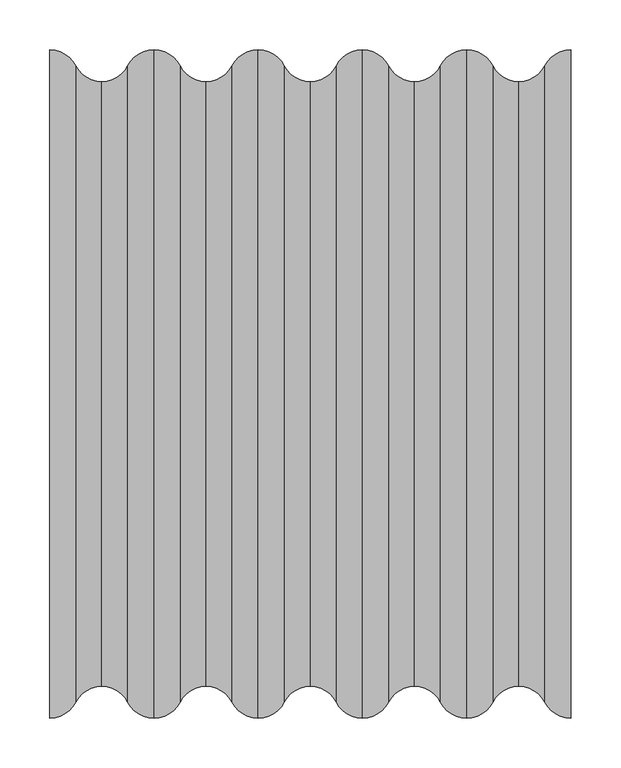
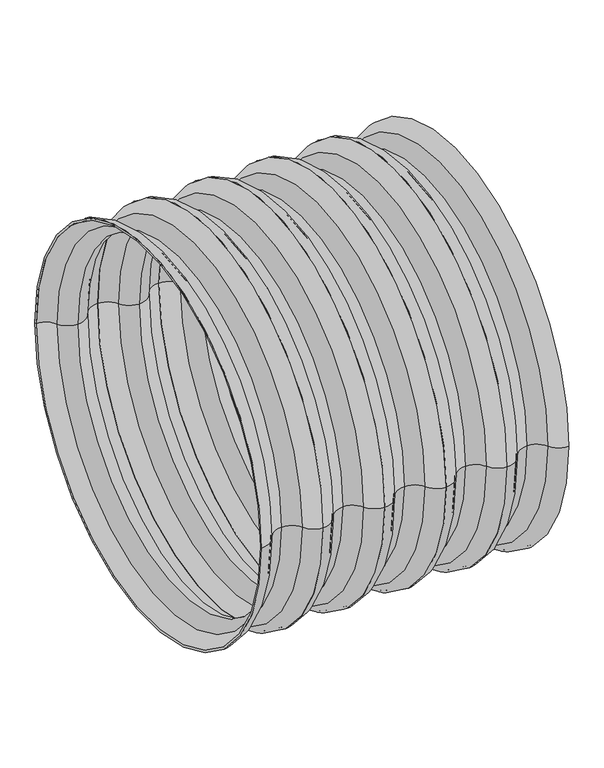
"""IFC4 building model written with IfcOpenShell, lengths in millimetres: pipe fitting geometry, Z_PIF_UN_Q-Bic_Plus_Shaft_Pipe_Wavin_(nested) : PP, RAL8012, ø600mm."""

from ifc_helpers import new_model, si_unit, point, frame, origin, place, context, project, spatial, circle_curve, ellipse_curve, trimmed, source, transform, mapped, element, save
from ifc_brep_helpers import plane_surface, revolved_surface, advanced_brep


def pipe_fitting_81697eeb(model_context):
    return source(origin(), model_context, "Body", "AdvancedBrep", [
        advanced_brep(
        [(840.0, -336.4, 0.0), (840.0, 336.4, 0.0), (866.25, 320.3, 0.0), (866.25, -320.3, 0.0), (840.0, -332.7, 0.0), (840.0, 332.7, 0.0), (866.25, -316.6, 0.0), (866.25, 316.6, 0.0), (892.5, -300.5, 0.0), (892.5, 300.5, 0.0), (918.75, -316.6, 0.0), (918.75, 316.6, 0.0), (945.0, -332.7, 0.0), (945.0, 332.7, 0.0), (945.0, -336.4, 0.0), (945.0, 336.4, 0.0), (918.75, -320.3, 0.0), (918.75, 320.3, 0.0), (892.5, -304.2, 0.0), (892.5, 304.2, 0.0)],
        [
            (0, 1, circle_curve(frame((840.0, 0.0, 0.0), z_axis=(1.0, 0.0, 0.0), x_axis=(0.0, 1.0, 0.0)), 336.4)),
            (1, 2, circle_curve(frame((840.0, 306.9505435, 0.0), z_axis=(0.0, 0.0, -1.0), x_axis=(1.0, 0.0, 0.0)), 29.4494565)),
            (2, 3, circle_curve(frame((866.25, 0.0, 0.0), z_axis=(-1.0, 0.0, 0.0), x_axis=(0.0, 1.0, 0.0)), 320.3)),
            (3, 0, circle_curve(frame((840.0, -306.9505435, 0.0), z_axis=(0.0, 0.0, -1.0), x_axis=(1.0, 0.0, 0.0)), 29.4494565)),
            (1, 0, circle_curve(frame((840.0, 0.0, 0.0), z_axis=(1.0, 0.0, 0.0), x_axis=(0.0, 1.0, 0.0)), 336.4)),
            (3, 2, circle_curve(frame((866.25, 0.0, 0.0), z_axis=(-1.0, 0.0, 0.0), x_axis=(0.0, 1.0, 0.0)), 320.3)),
            (4, 5, circle_curve(frame((840.0, 0.0, 0.0), z_axis=(1.0, 0.0, 0.0), x_axis=(0.0, 1.0, 0.0)), 332.7)),
            (5, 1),
            (0, 4),
            (5, 4, circle_curve(frame((840.0, 0.0, 0.0), z_axis=(1.0, 0.0, 0.0), x_axis=(0.0, 1.0, 0.0)), 332.7)),
            (6, 7, circle_curve(frame((866.25, 0.0, 0.0), z_axis=(1.0, 0.0, 0.0), x_axis=(0.0, 1.0, 0.0)), 316.6)),
            (7, 5, circle_curve(frame((840.0, 303.2505435, 0.0), z_axis=(0.0, 0.0, 1.0), x_axis=(1.0, 0.0, 0.0)), 29.4494565)),
            (4, 6, circle_curve(frame((840.0, -303.2505435, 0.0), z_axis=(0.0, 0.0, 1.0), x_axis=(1.0, 0.0, 0.0)), 29.4494565)),
            (7, 6, circle_curve(frame((866.25, 0.0, 0.0), z_axis=(1.0, 0.0, 0.0), x_axis=(0.0, 1.0, 0.0)), 316.6)),
            (8, 9, circle_curve(frame((892.5, 0.0, 0.0), z_axis=(1.0, 0.0, 0.0), x_axis=(0.0, 1.0, 0.0)), 300.5)),
            (9, 7, circle_curve(frame((892.5, 329.9494565, 0.0), z_axis=(0.0, 0.0, -1.0), x_axis=(1.0, 0.0, 0.0)), 29.4494565)),
            (6, 8, circle_curve(frame((892.5, -329.9494565, 0.0), z_axis=(0.0, 0.0, -1.0), x_axis=(1.0, 0.0, 0.0)), 29.4494565)),
            (9, 8, circle_curve(frame((892.5, 0.0, 0.0), z_axis=(1.0, 0.0, 0.0), x_axis=(0.0, 1.0, 0.0)), 300.5)),
            (10, 11, circle_curve(frame((918.75, 0.0, 0.0), z_axis=(1.0, 0.0, 0.0), x_axis=(0.0, 1.0, 0.0)), 316.6)),
            (11, 9, circle_curve(frame((892.5, 329.9494565, 0.0), z_axis=(0.0, 0.0, -1.0), x_axis=(1.0, 0.0, 0.0)), 29.4494565)),
            (8, 10, circle_curve(frame((892.5, -329.9494565, 0.0), z_axis=(0.0, 0.0, -1.0), x_axis=(1.0, 0.0, 0.0)), 29.4494565)),
            (11, 10, circle_curve(frame((918.75, 0.0, 0.0), z_axis=(1.0, 0.0, 0.0), x_axis=(0.0, 1.0, 0.0)), 316.6)),
            (12, 13, circle_curve(frame((945.0, 0.0, 0.0), z_axis=(1.0, 0.0, 0.0), x_axis=(0.0, 1.0, 0.0)), 332.7)),
            (13, 11, circle_curve(frame((945.0, 303.2505435, 0.0), z_axis=(0.0, 0.0, 1.0), x_axis=(1.0, 0.0, 0.0)), 29.4494565)),
            (10, 12, circle_curve(frame((945.0, -303.2505435, 0.0), z_axis=(0.0, 0.0, 1.0), x_axis=(1.0, 0.0, 0.0)), 29.4494565)),
            (13, 12, circle_curve(frame((945.0, 0.0, 0.0), z_axis=(1.0, 0.0, 0.0), x_axis=(0.0, 1.0, 0.0)), 332.7)),
            (14, 15, circle_curve(frame((945.0, 0.0, 0.0), z_axis=(1.0, 0.0, 0.0), x_axis=(0.0, 1.0, 0.0)), 336.4)),
            (15, 13),
            (12, 14),
            (15, 14, circle_curve(frame((945.0, 0.0, 0.0), z_axis=(1.0, 0.0, 0.0), x_axis=(0.0, 1.0, 0.0)), 336.4)),
            (16, 17, circle_curve(frame((918.75, 0.0, 0.0), z_axis=(1.0, 0.0, 0.0), x_axis=(0.0, 1.0, 0.0)), 320.3)),
            (17, 15, circle_curve(frame((945.0, 306.9505435, 0.0), z_axis=(0.0, 0.0, -1.0), x_axis=(1.0, 0.0, 0.0)), 29.4494565)),
            (14, 16, circle_curve(frame((945.0, -306.9505435, 0.0), z_axis=(0.0, 0.0, -1.0), x_axis=(1.0, 0.0, 0.0)), 29.4494565)),
            (17, 16, circle_curve(frame((918.75, 0.0, 0.0), z_axis=(1.0, 0.0, 0.0), x_axis=(0.0, 1.0, 0.0)), 320.3)),
            (18, 19, circle_curve(frame((892.5, 0.0, 0.0), z_axis=(1.0, 0.0, 0.0), x_axis=(0.0, 1.0, 0.0)), 304.2)),
            (19, 17, circle_curve(frame((892.5, 333.6494565, 0.0), z_axis=(0.0, 0.0, 1.0), x_axis=(1.0, 0.0, 0.0)), 29.4494565)),
            (16, 18, circle_curve(frame((892.5, -333.6494565, 0.0), z_axis=(0.0, 0.0, 1.0), x_axis=(1.0, 0.0, 0.0)), 29.4494565)),
            (19, 18, circle_curve(frame((892.5, 0.0, 0.0), z_axis=(1.0, 0.0, 0.0), x_axis=(0.0, 1.0, 0.0)), 304.2)),
            (2, 19, circle_curve(frame((892.5, 333.6494565, 0.0), z_axis=(0.0, 0.0, 1.0), x_axis=(1.0, 0.0, 0.0)), 29.4494565)),
            (18, 3, circle_curve(frame((892.5, -333.6494565, 0.0), z_axis=(0.0, 0.0, 1.0), x_axis=(1.0, 0.0, 0.0)), 29.4494565)),
        ],
        [
            revolved_surface(trimmed(ellipse_curve(frame((840.0, 306.9505435, 0.0), z_axis=(0.0, 0.0, 1.0), x_axis=(1.0, 0.0, 0.0)), 29.4494565, 29.4494565), [point((866.25, 320.3, 0.0))], [point((840.0, 336.4, 0.0))], True, "CARTESIAN"), (790.0, 0.0, 0.0), (-1.0, 0.0, 0.0)),
            plane_surface(frame((840.0, 0.0, 0.0), z_axis=(-1.0, 0.0, 0.0), x_axis=(0.0, 1.0, 0.0))),
            revolved_surface(trimmed(ellipse_curve(frame((840.0, 303.2505435, 0.0), z_axis=(0.0, 0.0, -1.0), x_axis=(1.0, 0.0, 0.0)), 29.4494565, 29.4494565), [point((840.0, 332.7, 0.0))], [point((866.25, 316.6, 0.0))], True, "CARTESIAN"), (790.0, 0.0, 0.0), (-1.0, 0.0, 0.0)),
            revolved_surface(trimmed(ellipse_curve(frame((892.5, 329.9494565, 0.0), z_axis=(0.0, 0.0, 1.0), x_axis=(1.0, 0.0, 0.0)), 29.4494565, 29.4494565), [point((866.25, 316.6, 0.0))], [point((892.5, 300.5, 0.0))], True, "CARTESIAN"), (790.0, 0.0, 0.0), (-1.0, 0.0, 0.0)),
            revolved_surface(trimmed(ellipse_curve(frame((892.5, 329.9494565, 0.0), z_axis=(0.0, 0.0, 1.0), x_axis=(1.0, 0.0, 0.0)), 29.4494565, 29.4494565), [point((892.5, 300.5, 0.0))], [point((918.75, 316.6, 0.0))], True, "CARTESIAN"), (790.0, 0.0, 0.0), (-1.0, 0.0, 0.0)),
            revolved_surface(trimmed(ellipse_curve(frame((945.0, 303.2505435, 0.0), z_axis=(0.0, 0.0, -1.0), x_axis=(1.0, 0.0, 0.0)), 29.4494565, 29.4494565), [point((918.75, 316.6, 0.0))], [point((945.0, 332.7, 0.0))], True, "CARTESIAN"), (790.0, 0.0, 0.0), (-1.0, 0.0, 0.0)),
            plane_surface(frame((945.0, 0.0, 0.0), z_axis=(1.0, 0.0, 0.0), x_axis=(0.0, 1.0, 0.0))),
            revolved_surface(trimmed(ellipse_curve(frame((945.0, 306.9505435, 0.0), z_axis=(0.0, 0.0, 1.0), x_axis=(1.0, 0.0, 0.0)), 29.4494565, 29.4494565), [point((945.0, 336.4, 0.0))], [point((918.75, 320.3, 0.0))], True, "CARTESIAN"), (790.0, 0.0, 0.0), (-1.0, 0.0, 0.0)),
            revolved_surface(trimmed(ellipse_curve(frame((892.5, 333.6494565, 0.0), z_axis=(0.0, 0.0, -1.0), x_axis=(1.0, 0.0, 0.0)), 29.4494565, 29.4494565), [point((918.75, 320.3, 0.0))], [point((892.5, 304.2, 0.0))], True, "CARTESIAN"), (790.0, 0.0, 0.0), (-1.0, 0.0, 0.0)),
            revolved_surface(trimmed(ellipse_curve(frame((892.5, 333.6494565, 0.0), z_axis=(0.0, 0.0, -1.0), x_axis=(1.0, 0.0, 0.0)), 29.4494565, 29.4494565), [point((892.5, 304.2, 0.0))], [point((866.25, 320.3, 0.0))], True, "CARTESIAN"), (790.0, 0.0, 0.0), (-1.0, 0.0, 0.0)),
        ],
        [
            (0, [[1, 2, 3, 4]]),
            (0, [[5, -4, 6, -2]]),
            (1, [[7, 8, -1, 9]]),
            (1, [[10, -9, -5, -8]]),
            (2, [[11, 12, -7, 13]]),
            (2, [[14, -13, -10, -12]]),
            (3, [[15, 16, -11, 17]]),
            (3, [[18, -17, -14, -16]]),
            (4, [[19, 20, -15, 21]]),
            (4, [[22, -21, -18, -20]]),
            (5, [[23, 24, -19, 25]]),
            (5, [[26, -25, -22, -24]]),
            (6, [[27, 28, -23, 29]]),
            (6, [[30, -29, -26, -28]]),
            (7, [[31, 32, -27, 33]]),
            (7, [[34, -33, -30, -32]]),
            (8, [[35, 36, -31, 37]]),
            (8, [[38, -37, -34, -36]]),
            (9, [[-3, 39, -35, 40]]),
            (9, [[-6, -40, -38, -39]]),
        ],
    ),
        advanced_brep(
        [(735.0, -336.4, 0.0), (735.0, 336.4, 0.0), (761.25, 320.3, 0.0), (761.25, -320.3, 0.0), (735.0, -332.7, 0.0), (735.0, 332.7, 0.0), (761.25, -316.6, 0.0), (761.25, 316.6, 0.0), (787.5, -300.5, 0.0), (787.5, 300.5, 0.0), (813.75, -316.6, 0.0), (813.75, 316.6, 0.0), (840.0, -332.7, 0.0), (840.0, 332.7, 0.0), (840.0, -336.4, 0.0), (840.0, 336.4, 0.0), (813.75, -320.3, 0.0), (813.75, 320.3, 0.0), (787.5, -304.2, 0.0), (787.5, 304.2, 0.0)],
        [
            (0, 1, circle_curve(frame((735.0, 0.0, 0.0), z_axis=(1.0, 0.0, 0.0), x_axis=(0.0, 1.0, 0.0)), 336.4)),
            (1, 2, circle_curve(frame((735.0, 306.9505435, 0.0), z_axis=(0.0, 0.0, -1.0), x_axis=(1.0, 0.0, 0.0)), 29.4494565)),
            (2, 3, circle_curve(frame((761.25, 0.0, 0.0), z_axis=(-1.0, 0.0, 0.0), x_axis=(0.0, 1.0, 0.0)), 320.3)),
            (3, 0, circle_curve(frame((735.0, -306.9505435, 0.0), z_axis=(0.0, 0.0, -1.0), x_axis=(1.0, 0.0, 0.0)), 29.4494565)),
            (1, 0, circle_curve(frame((735.0, 0.0, 0.0), z_axis=(1.0, 0.0, 0.0), x_axis=(0.0, 1.0, 0.0)), 336.4)),
            (3, 2, circle_curve(frame((761.25, 0.0, 0.0), z_axis=(-1.0, 0.0, 0.0), x_axis=(0.0, 1.0, 0.0)), 320.3)),
            (4, 5, circle_curve(frame((735.0, 0.0, 0.0), z_axis=(1.0, 0.0, 0.0), x_axis=(0.0, 1.0, 0.0)), 332.7)),
            (5, 1),
            (0, 4),
            (5, 4, circle_curve(frame((735.0, 0.0, 0.0), z_axis=(1.0, 0.0, 0.0), x_axis=(0.0, 1.0, 0.0)), 332.7)),
            (6, 7, circle_curve(frame((761.25, 0.0, 0.0), z_axis=(1.0, 0.0, 0.0), x_axis=(0.0, 1.0, 0.0)), 316.6)),
            (7, 5, circle_curve(frame((735.0, 303.2505435, 0.0), z_axis=(0.0, 0.0, 1.0), x_axis=(1.0, 0.0, 0.0)), 29.4494565)),
            (4, 6, circle_curve(frame((735.0, -303.2505435, 0.0), z_axis=(0.0, 0.0, 1.0), x_axis=(1.0, 0.0, 0.0)), 29.4494565)),
            (7, 6, circle_curve(frame((761.25, 0.0, 0.0), z_axis=(1.0, 0.0, 0.0), x_axis=(0.0, 1.0, 0.0)), 316.6)),
            (8, 9, circle_curve(frame((787.5, 0.0, 0.0), z_axis=(1.0, 0.0, 0.0), x_axis=(0.0, 1.0, 0.0)), 300.5)),
            (9, 7, circle_curve(frame((787.5, 329.9494565, 0.0), z_axis=(0.0, 0.0, -1.0), x_axis=(1.0, 0.0, 0.0)), 29.4494565)),
            (6, 8, circle_curve(frame((787.5, -329.9494565, 0.0), z_axis=(0.0, 0.0, -1.0), x_axis=(1.0, 0.0, 0.0)), 29.4494565)),
            (9, 8, circle_curve(frame((787.5, 0.0, 0.0), z_axis=(1.0, 0.0, 0.0), x_axis=(0.0, 1.0, 0.0)), 300.5)),
            (10, 11, circle_curve(frame((813.75, 0.0, 0.0), z_axis=(1.0, 0.0, 0.0), x_axis=(0.0, 1.0, 0.0)), 316.6)),
            (11, 9, circle_curve(frame((787.5, 329.9494565, 0.0), z_axis=(0.0, 0.0, -1.0), x_axis=(1.0, 0.0, 0.0)), 29.4494565)),
            (8, 10, circle_curve(frame((787.5, -329.9494565, 0.0), z_axis=(0.0, 0.0, -1.0), x_axis=(1.0, 0.0, 0.0)), 29.4494565)),
            (11, 10, circle_curve(frame((813.75, 0.0, 0.0), z_axis=(1.0, 0.0, 0.0), x_axis=(0.0, 1.0, 0.0)), 316.6)),
            (12, 13, circle_curve(frame((840.0, 0.0, 0.0), z_axis=(1.0, 0.0, 0.0), x_axis=(0.0, 1.0, 0.0)), 332.7)),
            (13, 11, circle_curve(frame((840.0, 303.2505435, 0.0), z_axis=(0.0, 0.0, 1.0), x_axis=(1.0, 0.0, 0.0)), 29.4494565)),
            (10, 12, circle_curve(frame((840.0, -303.2505435, 0.0), z_axis=(0.0, 0.0, 1.0), x_axis=(1.0, 0.0, 0.0)), 29.4494565)),
            (13, 12, circle_curve(frame((840.0, 0.0, 0.0), z_axis=(1.0, 0.0, 0.0), x_axis=(0.0, 1.0, 0.0)), 332.7)),
            (14, 15, circle_curve(frame((840.0, 0.0, 0.0), z_axis=(1.0, 0.0, 0.0), x_axis=(0.0, 1.0, 0.0)), 336.4)),
            (15, 13),
            (12, 14),
            (15, 14, circle_curve(frame((840.0, 0.0, 0.0), z_axis=(1.0, 0.0, 0.0), x_axis=(0.0, 1.0, 0.0)), 336.4)),
            (16, 17, circle_curve(frame((813.75, 0.0, 0.0), z_axis=(1.0, 0.0, 0.0), x_axis=(0.0, 1.0, 0.0)), 320.3)),
            (17, 15, circle_curve(frame((840.0, 306.9505435, 0.0), z_axis=(0.0, 0.0, -1.0), x_axis=(1.0, 0.0, 0.0)), 29.4494565)),
            (14, 16, circle_curve(frame((840.0, -306.9505435, 0.0), z_axis=(0.0, 0.0, -1.0), x_axis=(1.0, 0.0, 0.0)), 29.4494565)),
            (17, 16, circle_curve(frame((813.75, 0.0, 0.0), z_axis=(1.0, 0.0, 0.0), x_axis=(0.0, 1.0, 0.0)), 320.3)),
            (18, 19, circle_curve(frame((787.5, 0.0, 0.0), z_axis=(1.0, 0.0, 0.0), x_axis=(0.0, 1.0, 0.0)), 304.2)),
            (19, 17, circle_curve(frame((787.5, 333.6494565, 0.0), z_axis=(0.0, 0.0, 1.0), x_axis=(1.0, 0.0, 0.0)), 29.4494565)),
            (16, 18, circle_curve(frame((787.5, -333.6494565, 0.0), z_axis=(0.0, 0.0, 1.0), x_axis=(1.0, 0.0, 0.0)), 29.4494565)),
            (19, 18, circle_curve(frame((787.5, 0.0, 0.0), z_axis=(1.0, 0.0, 0.0), x_axis=(0.0, 1.0, 0.0)), 304.2)),
            (2, 19, circle_curve(frame((787.5, 333.6494565, 0.0), z_axis=(0.0, 0.0, 1.0), x_axis=(1.0, 0.0, 0.0)), 29.4494565)),
            (18, 3, circle_curve(frame((787.5, -333.6494565, 0.0), z_axis=(0.0, 0.0, 1.0), x_axis=(1.0, 0.0, 0.0)), 29.4494565)),
        ],
        [
            revolved_surface(trimmed(ellipse_curve(frame((735.0, 306.9505435, 0.0), z_axis=(0.0, 0.0, 1.0), x_axis=(1.0, 0.0, 0.0)), 29.4494565, 29.4494565), [point((761.25, 320.3, 0.0))], [point((735.0, 336.4, 0.0))], True, "CARTESIAN"), (685.0, 0.0, 0.0), (-1.0, 0.0, 0.0)),
            plane_surface(frame((735.0, 0.0, 0.0), z_axis=(-1.0, 0.0, 0.0), x_axis=(0.0, 1.0, 0.0))),
            revolved_surface(trimmed(ellipse_curve(frame((735.0, 303.2505435, 0.0), z_axis=(0.0, 0.0, -1.0), x_axis=(1.0, 0.0, 0.0)), 29.4494565, 29.4494565), [point((735.0, 332.7, 0.0))], [point((761.25, 316.6, 0.0))], True, "CARTESIAN"), (685.0, 0.0, 0.0), (-1.0, 0.0, 0.0)),
            revolved_surface(trimmed(ellipse_curve(frame((787.5, 329.9494565, 0.0), z_axis=(0.0, 0.0, 1.0), x_axis=(1.0, 0.0, 0.0)), 29.4494565, 29.4494565), [point((761.25, 316.6, 0.0))], [point((787.5, 300.5, 0.0))], True, "CARTESIAN"), (685.0, 0.0, 0.0), (-1.0, 0.0, 0.0)),
            revolved_surface(trimmed(ellipse_curve(frame((787.5, 329.9494565, 0.0), z_axis=(0.0, 0.0, 1.0), x_axis=(1.0, 0.0, 0.0)), 29.4494565, 29.4494565), [point((787.5, 300.5, 0.0))], [point((813.75, 316.6, 0.0))], True, "CARTESIAN"), (685.0, 0.0, 0.0), (-1.0, 0.0, 0.0)),
            revolved_surface(trimmed(ellipse_curve(frame((840.0, 303.2505435, 0.0), z_axis=(0.0, 0.0, -1.0), x_axis=(1.0, 0.0, 0.0)), 29.4494565, 29.4494565), [point((813.75, 316.6, 0.0))], [point((840.0, 332.7, 0.0))], True, "CARTESIAN"), (685.0, 0.0, 0.0), (-1.0, 0.0, 0.0)),
            plane_surface(frame((840.0, 0.0, 0.0), z_axis=(1.0, 0.0, 0.0), x_axis=(0.0, 1.0, 0.0))),
            revolved_surface(trimmed(ellipse_curve(frame((840.0, 306.9505435, 0.0), z_axis=(0.0, 0.0, 1.0), x_axis=(1.0, 0.0, 0.0)), 29.4494565, 29.4494565), [point((840.0, 336.4, 0.0))], [point((813.75, 320.3, 0.0))], True, "CARTESIAN"), (685.0, 0.0, 0.0), (-1.0, 0.0, 0.0)),
            revolved_surface(trimmed(ellipse_curve(frame((787.5, 333.6494565, 0.0), z_axis=(0.0, 0.0, -1.0), x_axis=(1.0, 0.0, 0.0)), 29.4494565, 29.4494565), [point((813.75, 320.3, 0.0))], [point((787.5, 304.2, 0.0))], True, "CARTESIAN"), (685.0, 0.0, 0.0), (-1.0, 0.0, 0.0)),
            revolved_surface(trimmed(ellipse_curve(frame((787.5, 333.6494565, 0.0), z_axis=(0.0, 0.0, -1.0), x_axis=(1.0, 0.0, 0.0)), 29.4494565, 29.4494565), [point((787.5, 304.2, 0.0))], [point((761.25, 320.3, 0.0))], True, "CARTESIAN"), (685.0, 0.0, 0.0), (-1.0, 0.0, 0.0)),
        ],
        [
            (0, [[1, 2, 3, 4]]),
            (0, [[5, -4, 6, -2]]),
            (1, [[7, 8, -1, 9]]),
            (1, [[10, -9, -5, -8]]),
            (2, [[11, 12, -7, 13]]),
            (2, [[14, -13, -10, -12]]),
            (3, [[15, 16, -11, 17]]),
            (3, [[18, -17, -14, -16]]),
            (4, [[19, 20, -15, 21]]),
            (4, [[22, -21, -18, -20]]),
            (5, [[23, 24, -19, 25]]),
            (5, [[26, -25, -22, -24]]),
            (6, [[27, 28, -23, 29]]),
            (6, [[30, -29, -26, -28]]),
            (7, [[31, 32, -27, 33]]),
            (7, [[34, -33, -30, -32]]),
            (8, [[35, 36, -31, 37]]),
            (8, [[38, -37, -34, -36]]),
            (9, [[-3, 39, -35, 40]]),
            (9, [[-6, -40, -38, -39]]),
        ],
    ),
        advanced_brep(
        [(630.0, -336.4, 0.0), (630.0, 336.4, 0.0), (656.25, 320.3, 0.0), (656.25, -320.3, 0.0), (630.0, -332.7, 0.0), (630.0, 332.7, 0.0), (656.25, -316.6, 0.0), (656.25, 316.6, 0.0), (682.5, -300.5, 0.0), (682.5, 300.5, 0.0), (708.75, -316.6, 0.0), (708.75, 316.6, 0.0), (735.0, -332.7, 0.0), (735.0, 332.7, 0.0), (735.0, -336.4, 0.0), (735.0, 336.4, 0.0), (708.75, -320.3, 0.0), (708.75, 320.3, 0.0), (682.5, -304.2, 0.0), (682.5, 304.2, 0.0)],
        [
            (0, 1, circle_curve(frame((630.0, 0.0, 0.0), z_axis=(1.0, 0.0, 0.0), x_axis=(0.0, 1.0, 0.0)), 336.4)),
            (1, 2, circle_curve(frame((630.0, 306.9505435, 0.0), z_axis=(0.0, 0.0, -1.0), x_axis=(1.0, 0.0, 0.0)), 29.4494565)),
            (2, 3, circle_curve(frame((656.25, 0.0, 0.0), z_axis=(-1.0, 0.0, 0.0), x_axis=(0.0, 1.0, 0.0)), 320.3)),
            (3, 0, circle_curve(frame((630.0, -306.9505435, 0.0), z_axis=(0.0, 0.0, -1.0), x_axis=(1.0, 0.0, 0.0)), 29.4494565)),
            (1, 0, circle_curve(frame((630.0, 0.0, 0.0), z_axis=(1.0, 0.0, 0.0), x_axis=(0.0, 1.0, 0.0)), 336.4)),
            (3, 2, circle_curve(frame((656.25, 0.0, 0.0), z_axis=(-1.0, 0.0, 0.0), x_axis=(0.0, 1.0, 0.0)), 320.3)),
            (4, 5, circle_curve(frame((630.0, 0.0, 0.0), z_axis=(1.0, 0.0, 0.0), x_axis=(0.0, 1.0, 0.0)), 332.7)),
            (5, 1),
            (0, 4),
            (5, 4, circle_curve(frame((630.0, 0.0, 0.0), z_axis=(1.0, 0.0, 0.0), x_axis=(0.0, 1.0, 0.0)), 332.7)),
            (6, 7, circle_curve(frame((656.25, 0.0, 0.0), z_axis=(1.0, 0.0, 0.0), x_axis=(0.0, 1.0, 0.0)), 316.6)),
            (7, 5, circle_curve(frame((630.0, 303.2505435, 0.0), z_axis=(0.0, 0.0, 1.0), x_axis=(1.0, 0.0, 0.0)), 29.4494565)),
            (4, 6, circle_curve(frame((630.0, -303.2505435, 0.0), z_axis=(0.0, 0.0, 1.0), x_axis=(1.0, 0.0, 0.0)), 29.4494565)),
            (7, 6, circle_curve(frame((656.25, 0.0, 0.0), z_axis=(1.0, 0.0, 0.0), x_axis=(0.0, 1.0, 0.0)), 316.6)),
            (8, 9, circle_curve(frame((682.5, 0.0, 0.0), z_axis=(1.0, 0.0, 0.0), x_axis=(0.0, 1.0, 0.0)), 300.5)),
            (9, 7, circle_curve(frame((682.5, 329.9494565, 0.0), z_axis=(0.0, 0.0, -1.0), x_axis=(1.0, 0.0, 0.0)), 29.4494565)),
            (6, 8, circle_curve(frame((682.5, -329.9494565, 0.0), z_axis=(0.0, 0.0, -1.0), x_axis=(1.0, 0.0, 0.0)), 29.4494565)),
            (9, 8, circle_curve(frame((682.5, 0.0, 0.0), z_axis=(1.0, 0.0, 0.0), x_axis=(0.0, 1.0, 0.0)), 300.5)),
            (10, 11, circle_curve(frame((708.75, 0.0, 0.0), z_axis=(1.0, 0.0, 0.0), x_axis=(0.0, 1.0, 0.0)), 316.6)),
            (11, 9, circle_curve(frame((682.5, 329.9494565, 0.0), z_axis=(0.0, 0.0, -1.0), x_axis=(1.0, 0.0, 0.0)), 29.4494565)),
            (8, 10, circle_curve(frame((682.5, -329.9494565, 0.0), z_axis=(0.0, 0.0, -1.0), x_axis=(1.0, 0.0, 0.0)), 29.4494565)),
            (11, 10, circle_curve(frame((708.75, 0.0, 0.0), z_axis=(1.0, 0.0, 0.0), x_axis=(0.0, 1.0, 0.0)), 316.6)),
            (12, 13, circle_curve(frame((735.0, 0.0, 0.0), z_axis=(1.0, 0.0, 0.0), x_axis=(0.0, 1.0, 0.0)), 332.7)),
            (13, 11, circle_curve(frame((735.0, 303.2505435, 0.0), z_axis=(0.0, 0.0, 1.0), x_axis=(1.0, 0.0, 0.0)), 29.4494565)),
            (10, 12, circle_curve(frame((735.0, -303.2505435, 0.0), z_axis=(0.0, 0.0, 1.0), x_axis=(1.0, 0.0, 0.0)), 29.4494565)),
            (13, 12, circle_curve(frame((735.0, 0.0, 0.0), z_axis=(1.0, 0.0, 0.0), x_axis=(0.0, 1.0, 0.0)), 332.7)),
            (14, 15, circle_curve(frame((735.0, 0.0, 0.0), z_axis=(1.0, 0.0, 0.0), x_axis=(0.0, 1.0, 0.0)), 336.4)),
            (15, 13),
            (12, 14),
            (15, 14, circle_curve(frame((735.0, 0.0, 0.0), z_axis=(1.0, 0.0, 0.0), x_axis=(0.0, 1.0, 0.0)), 336.4)),
            (16, 17, circle_curve(frame((708.75, 0.0, 0.0), z_axis=(1.0, 0.0, 0.0), x_axis=(0.0, 1.0, 0.0)), 320.3)),
            (17, 15, circle_curve(frame((735.0, 306.9505435, 0.0), z_axis=(0.0, 0.0, -1.0), x_axis=(1.0, 0.0, 0.0)), 29.4494565)),
            (14, 16, circle_curve(frame((735.0, -306.9505435, 0.0), z_axis=(0.0, 0.0, -1.0), x_axis=(1.0, 0.0, 0.0)), 29.4494565)),
            (17, 16, circle_curve(frame((708.75, 0.0, 0.0), z_axis=(1.0, 0.0, 0.0), x_axis=(0.0, 1.0, 0.0)), 320.3)),
            (18, 19, circle_curve(frame((682.5, 0.0, 0.0), z_axis=(1.0, 0.0, 0.0), x_axis=(0.0, 1.0, 0.0)), 304.2)),
            (19, 17, circle_curve(frame((682.5, 333.6494565, 0.0), z_axis=(0.0, 0.0, 1.0), x_axis=(1.0, 0.0, 0.0)), 29.4494565)),
            (16, 18, circle_curve(frame((682.5, -333.6494565, 0.0), z_axis=(0.0, 0.0, 1.0), x_axis=(1.0, 0.0, 0.0)), 29.4494565)),
            (19, 18, circle_curve(frame((682.5, 0.0, 0.0), z_axis=(1.0, 0.0, 0.0), x_axis=(0.0, 1.0, 0.0)), 304.2)),
            (2, 19, circle_curve(frame((682.5, 333.6494565, 0.0), z_axis=(0.0, 0.0, 1.0), x_axis=(1.0, 0.0, 0.0)), 29.4494565)),
            (18, 3, circle_curve(frame((682.5, -333.6494565, 0.0), z_axis=(0.0, 0.0, 1.0), x_axis=(1.0, 0.0, 0.0)), 29.4494565)),
        ],
        [
            revolved_surface(trimmed(ellipse_curve(frame((630.0, 306.9505435, 0.0), z_axis=(0.0, 0.0, 1.0), x_axis=(1.0, 0.0, 0.0)), 29.4494565, 29.4494565), [point((656.25, 320.3, 0.0))], [point((630.0, 336.4, 0.0))], True, "CARTESIAN"), (580.0, 0.0, 0.0), (-1.0, 0.0, 0.0)),
            plane_surface(frame((630.0, 0.0, 0.0), z_axis=(-1.0, 0.0, 0.0), x_axis=(0.0, 1.0, 0.0))),
            revolved_surface(trimmed(ellipse_curve(frame((630.0, 303.2505435, 0.0), z_axis=(0.0, 0.0, -1.0), x_axis=(1.0, 0.0, 0.0)), 29.4494565, 29.4494565), [point((630.0, 332.7, 0.0))], [point((656.25, 316.6, 0.0))], True, "CARTESIAN"), (580.0, 0.0, 0.0), (-1.0, 0.0, 0.0)),
            revolved_surface(trimmed(ellipse_curve(frame((682.5, 329.9494565, 0.0), z_axis=(0.0, 0.0, 1.0), x_axis=(1.0, 0.0, 0.0)), 29.4494565, 29.4494565), [point((656.25, 316.6, 0.0))], [point((682.5, 300.5, 0.0))], True, "CARTESIAN"), (580.0, 0.0, 0.0), (-1.0, 0.0, 0.0)),
            revolved_surface(trimmed(ellipse_curve(frame((682.5, 329.9494565, 0.0), z_axis=(0.0, 0.0, 1.0), x_axis=(1.0, 0.0, 0.0)), 29.4494565, 29.4494565), [point((682.5, 300.5, 0.0))], [point((708.75, 316.6, 0.0))], True, "CARTESIAN"), (580.0, 0.0, 0.0), (-1.0, 0.0, 0.0)),
            revolved_surface(trimmed(ellipse_curve(frame((735.0, 303.2505435, 0.0), z_axis=(0.0, 0.0, -1.0), x_axis=(1.0, 0.0, 0.0)), 29.4494565, 29.4494565), [point((708.75, 316.6, 0.0))], [point((735.0, 332.7, 0.0))], True, "CARTESIAN"), (580.0, 0.0, 0.0), (-1.0, 0.0, 0.0)),
            plane_surface(frame((735.0, 0.0, 0.0), z_axis=(1.0, 0.0, 0.0), x_axis=(0.0, 1.0, 0.0))),
            revolved_surface(trimmed(ellipse_curve(frame((735.0, 306.9505435, 0.0), z_axis=(0.0, 0.0, 1.0), x_axis=(1.0, 0.0, 0.0)), 29.4494565, 29.4494565), [point((735.0, 336.4, 0.0))], [point((708.75, 320.3, 0.0))], True, "CARTESIAN"), (580.0, 0.0, 0.0), (-1.0, 0.0, 0.0)),
            revolved_surface(trimmed(ellipse_curve(frame((682.5, 333.6494565, 0.0), z_axis=(0.0, 0.0, -1.0), x_axis=(1.0, 0.0, 0.0)), 29.4494565, 29.4494565), [point((708.75, 320.3, 0.0))], [point((682.5, 304.2, 0.0))], True, "CARTESIAN"), (580.0, 0.0, 0.0), (-1.0, 0.0, 0.0)),
            revolved_surface(trimmed(ellipse_curve(frame((682.5, 333.6494565, 0.0), z_axis=(0.0, 0.0, -1.0), x_axis=(1.0, 0.0, 0.0)), 29.4494565, 29.4494565), [point((682.5, 304.2, 0.0))], [point((656.25, 320.3, 0.0))], True, "CARTESIAN"), (580.0, 0.0, 0.0), (-1.0, 0.0, 0.0)),
        ],
        [
            (0, [[1, 2, 3, 4]]),
            (0, [[5, -4, 6, -2]]),
            (1, [[7, 8, -1, 9]]),
            (1, [[10, -9, -5, -8]]),
            (2, [[11, 12, -7, 13]]),
            (2, [[14, -13, -10, -12]]),
            (3, [[15, 16, -11, 17]]),
            (3, [[18, -17, -14, -16]]),
            (4, [[19, 20, -15, 21]]),
            (4, [[22, -21, -18, -20]]),
            (5, [[23, 24, -19, 25]]),
            (5, [[26, -25, -22, -24]]),
            (6, [[27, 28, -23, 29]]),
            (6, [[30, -29, -26, -28]]),
            (7, [[31, 32, -27, 33]]),
            (7, [[34, -33, -30, -32]]),
            (8, [[35, 36, -31, 37]]),
            (8, [[38, -37, -34, -36]]),
            (9, [[-3, 39, -35, 40]]),
            (9, [[-6, -40, -38, -39]]),
        ],
    ),
        advanced_brep(
        [(525.0, -336.4, 0.0), (525.0, 336.4, 0.0), (551.25, 320.3, 0.0), (551.25, -320.3, 0.0), (525.0, -332.7, 0.0), (525.0, 332.7, 0.0), (551.25, -316.6, 0.0), (551.25, 316.6, 0.0), (577.5, -300.5, 0.0), (577.5, 300.5, 0.0), (603.75, -316.6, 0.0), (603.75, 316.6, 0.0), (630.0, -332.7, 0.0), (630.0, 332.7, 0.0), (630.0, -336.4, 0.0), (630.0, 336.4, 0.0), (603.75, -320.3, 0.0), (603.75, 320.3, 0.0), (577.5, -304.2, 0.0), (577.5, 304.2, 0.0)],
        [
            (0, 1, circle_curve(frame((525.0, 0.0, 0.0), z_axis=(1.0, 0.0, 0.0), x_axis=(0.0, 1.0, 0.0)), 336.4)),
            (1, 2, circle_curve(frame((525.0, 306.9505435, 0.0), z_axis=(0.0, 0.0, -1.0), x_axis=(1.0, 0.0, 0.0)), 29.4494565)),
            (2, 3, circle_curve(frame((551.25, 0.0, 0.0), z_axis=(-1.0, 0.0, 0.0), x_axis=(0.0, 1.0, 0.0)), 320.3)),
            (3, 0, circle_curve(frame((525.0, -306.9505435, 0.0), z_axis=(0.0, 0.0, -1.0), x_axis=(1.0, 0.0, 0.0)), 29.4494565)),
            (1, 0, circle_curve(frame((525.0, 0.0, 0.0), z_axis=(1.0, 0.0, 0.0), x_axis=(0.0, 1.0, 0.0)), 336.4)),
            (3, 2, circle_curve(frame((551.25, 0.0, 0.0), z_axis=(-1.0, 0.0, 0.0), x_axis=(0.0, 1.0, 0.0)), 320.3)),
            (4, 5, circle_curve(frame((525.0, 0.0, 0.0), z_axis=(1.0, 0.0, 0.0), x_axis=(0.0, 1.0, 0.0)), 332.7)),
            (5, 1),
            (0, 4),
            (5, 4, circle_curve(frame((525.0, 0.0, 0.0), z_axis=(1.0, 0.0, 0.0), x_axis=(0.0, 1.0, 0.0)), 332.7)),
            (6, 7, circle_curve(frame((551.25, 0.0, 0.0), z_axis=(1.0, 0.0, 0.0), x_axis=(0.0, 1.0, 0.0)), 316.6)),
            (7, 5, circle_curve(frame((525.0, 303.2505435, 0.0), z_axis=(0.0, 0.0, 1.0), x_axis=(1.0, 0.0, 0.0)), 29.4494565)),
            (4, 6, circle_curve(frame((525.0, -303.2505435, 0.0), z_axis=(0.0, 0.0, 1.0), x_axis=(1.0, 0.0, 0.0)), 29.4494565)),
            (7, 6, circle_curve(frame((551.25, 0.0, 0.0), z_axis=(1.0, 0.0, 0.0), x_axis=(0.0, 1.0, 0.0)), 316.6)),
            (8, 9, circle_curve(frame((577.5, 0.0, 0.0), z_axis=(1.0, 0.0, 0.0), x_axis=(0.0, 1.0, 0.0)), 300.5)),
            (9, 7, circle_curve(frame((577.5, 329.9494565, 0.0), z_axis=(0.0, 0.0, -1.0), x_axis=(1.0, 0.0, 0.0)), 29.4494565)),
            (6, 8, circle_curve(frame((577.5, -329.9494565, 0.0), z_axis=(0.0, 0.0, -1.0), x_axis=(1.0, 0.0, 0.0)), 29.4494565)),
            (9, 8, circle_curve(frame((577.5, 0.0, 0.0), z_axis=(1.0, 0.0, 0.0), x_axis=(0.0, 1.0, 0.0)), 300.5)),
            (10, 11, circle_curve(frame((603.75, 0.0, 0.0), z_axis=(1.0, 0.0, 0.0), x_axis=(0.0, 1.0, 0.0)), 316.6)),
            (11, 9, circle_curve(frame((577.5, 329.9494565, 0.0), z_axis=(0.0, 0.0, -1.0), x_axis=(1.0, 0.0, 0.0)), 29.4494565)),
            (8, 10, circle_curve(frame((577.5, -329.9494565, 0.0), z_axis=(0.0, 0.0, -1.0), x_axis=(1.0, 0.0, 0.0)), 29.4494565)),
            (11, 10, circle_curve(frame((603.75, 0.0, 0.0), z_axis=(1.0, 0.0, 0.0), x_axis=(0.0, 1.0, 0.0)), 316.6)),
            (12, 13, circle_curve(frame((630.0, 0.0, 0.0), z_axis=(1.0, 0.0, 0.0), x_axis=(0.0, 1.0, 0.0)), 332.7)),
            (13, 11, circle_curve(frame((630.0, 303.2505435, 0.0), z_axis=(0.0, 0.0, 1.0), x_axis=(1.0, 0.0, 0.0)), 29.4494565)),
            (10, 12, circle_curve(frame((630.0, -303.2505435, 0.0), z_axis=(0.0, 0.0, 1.0), x_axis=(1.0, 0.0, 0.0)), 29.4494565)),
            (13, 12, circle_curve(frame((630.0, 0.0, 0.0), z_axis=(1.0, 0.0, 0.0), x_axis=(0.0, 1.0, 0.0)), 332.7)),
            (14, 15, circle_curve(frame((630.0, 0.0, 0.0), z_axis=(1.0, 0.0, 0.0), x_axis=(0.0, 1.0, 0.0)), 336.4)),
            (15, 13),
            (12, 14),
            (15, 14, circle_curve(frame((630.0, 0.0, 0.0), z_axis=(1.0, 0.0, 0.0), x_axis=(0.0, 1.0, 0.0)), 336.4)),
            (16, 17, circle_curve(frame((603.75, 0.0, 0.0), z_axis=(1.0, 0.0, 0.0), x_axis=(0.0, 1.0, 0.0)), 320.3)),
            (17, 15, circle_curve(frame((630.0, 306.9505435, 0.0), z_axis=(0.0, 0.0, -1.0), x_axis=(1.0, 0.0, 0.0)), 29.4494565)),
            (14, 16, circle_curve(frame((630.0, -306.9505435, 0.0), z_axis=(0.0, 0.0, -1.0), x_axis=(1.0, 0.0, 0.0)), 29.4494565)),
            (17, 16, circle_curve(frame((603.75, 0.0, 0.0), z_axis=(1.0, 0.0, 0.0), x_axis=(0.0, 1.0, 0.0)), 320.3)),
            (18, 19, circle_curve(frame((577.5, 0.0, 0.0), z_axis=(1.0, 0.0, 0.0), x_axis=(0.0, 1.0, 0.0)), 304.2)),
            (19, 17, circle_curve(frame((577.5, 333.6494565, 0.0), z_axis=(0.0, 0.0, 1.0), x_axis=(1.0, 0.0, 0.0)), 29.4494565)),
            (16, 18, circle_curve(frame((577.5, -333.6494565, 0.0), z_axis=(0.0, 0.0, 1.0), x_axis=(1.0, 0.0, 0.0)), 29.4494565)),
            (19, 18, circle_curve(frame((577.5, 0.0, 0.0), z_axis=(1.0, 0.0, 0.0), x_axis=(0.0, 1.0, 0.0)), 304.2)),
            (2, 19, circle_curve(frame((577.5, 333.6494565, 0.0), z_axis=(0.0, 0.0, 1.0), x_axis=(1.0, 0.0, 0.0)), 29.4494565)),
            (18, 3, circle_curve(frame((577.5, -333.6494565, 0.0), z_axis=(0.0, 0.0, 1.0), x_axis=(1.0, 0.0, 0.0)), 29.4494565)),
        ],
        [
            revolved_surface(trimmed(ellipse_curve(frame((525.0, 306.9505435, 0.0), z_axis=(0.0, 0.0, 1.0), x_axis=(1.0, 0.0, 0.0)), 29.4494565, 29.4494565), [point((551.25, 320.3, 0.0))], [point((525.0, 336.4, 0.0))], True, "CARTESIAN"), (475.0, 0.0, 0.0), (-1.0, 0.0, 0.0)),
            plane_surface(frame((525.0, 0.0, 0.0), z_axis=(-1.0, 0.0, 0.0), x_axis=(0.0, 1.0, 0.0))),
            revolved_surface(trimmed(ellipse_curve(frame((525.0, 303.2505435, 0.0), z_axis=(0.0, 0.0, -1.0), x_axis=(1.0, 0.0, 0.0)), 29.4494565, 29.4494565), [point((525.0, 332.7, 0.0))], [point((551.25, 316.6, 0.0))], True, "CARTESIAN"), (475.0, 0.0, 0.0), (-1.0, 0.0, 0.0)),
            revolved_surface(trimmed(ellipse_curve(frame((577.5, 329.9494565, 0.0), z_axis=(0.0, 0.0, 1.0), x_axis=(1.0, 0.0, 0.0)), 29.4494565, 29.4494565), [point((551.25, 316.6, 0.0))], [point((577.5, 300.5, 0.0))], True, "CARTESIAN"), (475.0, 0.0, 0.0), (-1.0, 0.0, 0.0)),
            revolved_surface(trimmed(ellipse_curve(frame((577.5, 329.9494565, 0.0), z_axis=(0.0, 0.0, 1.0), x_axis=(1.0, 0.0, 0.0)), 29.4494565, 29.4494565), [point((577.5, 300.5, 0.0))], [point((603.75, 316.6, 0.0))], True, "CARTESIAN"), (475.0, 0.0, 0.0), (-1.0, 0.0, 0.0)),
            revolved_surface(trimmed(ellipse_curve(frame((630.0, 303.2505435, 0.0), z_axis=(0.0, 0.0, -1.0), x_axis=(1.0, 0.0, 0.0)), 29.4494565, 29.4494565), [point((603.75, 316.6, 0.0))], [point((630.0, 332.7, 0.0))], True, "CARTESIAN"), (475.0, 0.0, 0.0), (-1.0, 0.0, 0.0)),
            plane_surface(frame((630.0, 0.0, 0.0), z_axis=(1.0, 0.0, 0.0), x_axis=(0.0, 1.0, 0.0))),
            revolved_surface(trimmed(ellipse_curve(frame((630.0, 306.9505435, 0.0), z_axis=(0.0, 0.0, 1.0), x_axis=(1.0, 0.0, 0.0)), 29.4494565, 29.4494565), [point((630.0, 336.4, 0.0))], [point((603.75, 320.3, 0.0))], True, "CARTESIAN"), (475.0, 0.0, 0.0), (-1.0, 0.0, 0.0)),
            revolved_surface(trimmed(ellipse_curve(frame((577.5, 333.6494565, 0.0), z_axis=(0.0, 0.0, -1.0), x_axis=(1.0, 0.0, 0.0)), 29.4494565, 29.4494565), [point((603.75, 320.3, 0.0))], [point((577.5, 304.2, 0.0))], True, "CARTESIAN"), (475.0, 0.0, 0.0), (-1.0, 0.0, 0.0)),
            revolved_surface(trimmed(ellipse_curve(frame((577.5, 333.6494565, 0.0), z_axis=(0.0, 0.0, -1.0), x_axis=(1.0, 0.0, 0.0)), 29.4494565, 29.4494565), [point((577.5, 304.2, 0.0))], [point((551.25, 320.3, 0.0))], True, "CARTESIAN"), (475.0, 0.0, 0.0), (-1.0, 0.0, 0.0)),
        ],
        [
            (0, [[1, 2, 3, 4]]),
            (0, [[5, -4, 6, -2]]),
            (1, [[7, 8, -1, 9]]),
            (1, [[10, -9, -5, -8]]),
            (2, [[11, 12, -7, 13]]),
            (2, [[14, -13, -10, -12]]),
            (3, [[15, 16, -11, 17]]),
            (3, [[18, -17, -14, -16]]),
            (4, [[19, 20, -15, 21]]),
            (4, [[22, -21, -18, -20]]),
            (5, [[23, 24, -19, 25]]),
            (5, [[26, -25, -22, -24]]),
            (6, [[27, 28, -23, 29]]),
            (6, [[30, -29, -26, -28]]),
            (7, [[31, 32, -27, 33]]),
            (7, [[34, -33, -30, -32]]),
            (8, [[35, 36, -31, 37]]),
            (8, [[38, -37, -34, -36]]),
            (9, [[-3, 39, -35, 40]]),
            (9, [[-6, -40, -38, -39]]),
        ],
    ),
        advanced_brep(
        [(420.0, -336.4, 0.0), (420.0, 336.4, 0.0), (446.25, 320.3, 0.0), (446.25, -320.3, 0.0), (420.0, -332.7, 0.0), (420.0, 332.7, 0.0), (446.25, -316.6, 0.0), (446.25, 316.6, 0.0), (472.5, -300.5, 0.0), (472.5, 300.5, 0.0), (498.75, -316.6, 0.0), (498.75, 316.6, 0.0), (525.0, -332.7, 0.0), (525.0, 332.7, 0.0), (525.0, -336.4, 0.0), (525.0, 336.4, 0.0), (498.75, -320.3, 0.0), (498.75, 320.3, 0.0), (472.5, -304.2, 0.0), (472.5, 304.2, 0.0)],
        [
            (0, 1, circle_curve(frame((420.0, 0.0, 0.0), z_axis=(1.0, 0.0, 0.0), x_axis=(0.0, 1.0, 0.0)), 336.4)),
            (1, 2, circle_curve(frame((420.0, 306.9505435, 0.0), z_axis=(0.0, 0.0, -1.0), x_axis=(1.0, 0.0, 0.0)), 29.4494565)),
            (2, 3, circle_curve(frame((446.25, 0.0, 0.0), z_axis=(-1.0, 0.0, 0.0), x_axis=(0.0, 1.0, 0.0)), 320.3)),
            (3, 0, circle_curve(frame((420.0, -306.9505435, 0.0), z_axis=(0.0, 0.0, -1.0), x_axis=(1.0, 0.0, 0.0)), 29.4494565)),
            (1, 0, circle_curve(frame((420.0, 0.0, 0.0), z_axis=(1.0, 0.0, 0.0), x_axis=(0.0, 1.0, 0.0)), 336.4)),
            (3, 2, circle_curve(frame((446.25, 0.0, 0.0), z_axis=(-1.0, 0.0, 0.0), x_axis=(0.0, 1.0, 0.0)), 320.3)),
            (4, 5, circle_curve(frame((420.0, 0.0, 0.0), z_axis=(1.0, 0.0, 0.0), x_axis=(0.0, 1.0, 0.0)), 332.7)),
            (5, 1),
            (0, 4),
            (5, 4, circle_curve(frame((420.0, 0.0, 0.0), z_axis=(1.0, 0.0, 0.0), x_axis=(0.0, 1.0, 0.0)), 332.7)),
            (6, 7, circle_curve(frame((446.25, 0.0, 0.0), z_axis=(1.0, 0.0, 0.0), x_axis=(0.0, 1.0, 0.0)), 316.6)),
            (7, 5, circle_curve(frame((420.0, 303.2505435, 0.0), z_axis=(0.0, 0.0, 1.0), x_axis=(1.0, 0.0, 0.0)), 29.4494565)),
            (4, 6, circle_curve(frame((420.0, -303.2505435, 0.0), z_axis=(0.0, 0.0, 1.0), x_axis=(1.0, 0.0, 0.0)), 29.4494565)),
            (7, 6, circle_curve(frame((446.25, 0.0, 0.0), z_axis=(1.0, 0.0, 0.0), x_axis=(0.0, 1.0, 0.0)), 316.6)),
            (8, 9, circle_curve(frame((472.5, 0.0, 0.0), z_axis=(1.0, 0.0, 0.0), x_axis=(0.0, 1.0, 0.0)), 300.5)),
            (9, 7, circle_curve(frame((472.5, 329.9494565, 0.0), z_axis=(0.0, 0.0, -1.0), x_axis=(1.0, 0.0, 0.0)), 29.4494565)),
            (6, 8, circle_curve(frame((472.5, -329.9494565, 0.0), z_axis=(0.0, 0.0, -1.0), x_axis=(1.0, 0.0, 0.0)), 29.4494565)),
            (9, 8, circle_curve(frame((472.5, 0.0, 0.0), z_axis=(1.0, 0.0, 0.0), x_axis=(0.0, 1.0, 0.0)), 300.5)),
            (10, 11, circle_curve(frame((498.75, 0.0, 0.0), z_axis=(1.0, 0.0, 0.0), x_axis=(0.0, 1.0, 0.0)), 316.6)),
            (11, 9, circle_curve(frame((472.5, 329.9494565, 0.0), z_axis=(0.0, 0.0, -1.0), x_axis=(1.0, 0.0, 0.0)), 29.4494565)),
            (8, 10, circle_curve(frame((472.5, -329.9494565, 0.0), z_axis=(0.0, 0.0, -1.0), x_axis=(1.0, 0.0, 0.0)), 29.4494565)),
            (11, 10, circle_curve(frame((498.75, 0.0, 0.0), z_axis=(1.0, 0.0, 0.0), x_axis=(0.0, 1.0, 0.0)), 316.6)),
            (12, 13, circle_curve(frame((525.0, 0.0, 0.0), z_axis=(1.0, 0.0, 0.0), x_axis=(0.0, 1.0, 0.0)), 332.7)),
            (13, 11, circle_curve(frame((525.0, 303.2505435, 0.0), z_axis=(0.0, 0.0, 1.0), x_axis=(1.0, 0.0, 0.0)), 29.4494565)),
            (10, 12, circle_curve(frame((525.0, -303.2505435, 0.0), z_axis=(0.0, 0.0, 1.0), x_axis=(1.0, 0.0, 0.0)), 29.4494565)),
            (13, 12, circle_curve(frame((525.0, 0.0, 0.0), z_axis=(1.0, 0.0, 0.0), x_axis=(0.0, 1.0, 0.0)), 332.7)),
            (14, 15, circle_curve(frame((525.0, 0.0, 0.0), z_axis=(1.0, 0.0, 0.0), x_axis=(0.0, 1.0, 0.0)), 336.4)),
            (15, 13),
            (12, 14),
            (15, 14, circle_curve(frame((525.0, 0.0, 0.0), z_axis=(1.0, 0.0, 0.0), x_axis=(0.0, 1.0, 0.0)), 336.4)),
            (16, 17, circle_curve(frame((498.75, 0.0, 0.0), z_axis=(1.0, 0.0, 0.0), x_axis=(0.0, 1.0, 0.0)), 320.3)),
            (17, 15, circle_curve(frame((525.0, 306.9505435, 0.0), z_axis=(0.0, 0.0, -1.0), x_axis=(1.0, 0.0, 0.0)), 29.4494565)),
            (14, 16, circle_curve(frame((525.0, -306.9505435, 0.0), z_axis=(0.0, 0.0, -1.0), x_axis=(1.0, 0.0, 0.0)), 29.4494565)),
            (17, 16, circle_curve(frame((498.75, 0.0, 0.0), z_axis=(1.0, 0.0, 0.0), x_axis=(0.0, 1.0, 0.0)), 320.3)),
            (18, 19, circle_curve(frame((472.5, 0.0, 0.0), z_axis=(1.0, 0.0, 0.0), x_axis=(0.0, 1.0, 0.0)), 304.2)),
            (19, 17, circle_curve(frame((472.5, 333.6494565, 0.0), z_axis=(0.0, 0.0, 1.0), x_axis=(1.0, 0.0, 0.0)), 29.4494565)),
            (16, 18, circle_curve(frame((472.5, -333.6494565, 0.0), z_axis=(0.0, 0.0, 1.0), x_axis=(1.0, 0.0, 0.0)), 29.4494565)),
            (19, 18, circle_curve(frame((472.5, 0.0, 0.0), z_axis=(1.0, 0.0, 0.0), x_axis=(0.0, 1.0, 0.0)), 304.2)),
            (2, 19, circle_curve(frame((472.5, 333.6494565, 0.0), z_axis=(0.0, 0.0, 1.0), x_axis=(1.0, 0.0, 0.0)), 29.4494565)),
            (18, 3, circle_curve(frame((472.5, -333.6494565, 0.0), z_axis=(0.0, 0.0, 1.0), x_axis=(1.0, 0.0, 0.0)), 29.4494565)),
        ],
        [
            revolved_surface(trimmed(ellipse_curve(frame((420.0, 306.9505435, 0.0), z_axis=(0.0, 0.0, 1.0), x_axis=(1.0, 0.0, 0.0)), 29.4494565, 29.4494565), [point((446.25, 320.3, 0.0))], [point((420.0, 336.4, 0.0))], True, "CARTESIAN"), (370.0, 0.0, 0.0), (-1.0, 0.0, 0.0)),
            plane_surface(frame((420.0, 0.0, 0.0), z_axis=(-1.0, 0.0, 0.0), x_axis=(0.0, 1.0, 0.0))),
            revolved_surface(trimmed(ellipse_curve(frame((420.0, 303.2505435, 0.0), z_axis=(0.0, 0.0, -1.0), x_axis=(1.0, 0.0, 0.0)), 29.4494565, 29.4494565), [point((420.0, 332.7, 0.0))], [point((446.25, 316.6, 0.0))], True, "CARTESIAN"), (370.0, 0.0, 0.0), (-1.0, 0.0, 0.0)),
            revolved_surface(trimmed(ellipse_curve(frame((472.5, 329.9494565, 0.0), z_axis=(0.0, 0.0, 1.0), x_axis=(1.0, 0.0, 0.0)), 29.4494565, 29.4494565), [point((446.25, 316.6, 0.0))], [point((472.5, 300.5, 0.0))], True, "CARTESIAN"), (370.0, 0.0, 0.0), (-1.0, 0.0, 0.0)),
            revolved_surface(trimmed(ellipse_curve(frame((472.5, 329.9494565, 0.0), z_axis=(0.0, 0.0, 1.0), x_axis=(1.0, 0.0, 0.0)), 29.4494565, 29.4494565), [point((472.5, 300.5, 0.0))], [point((498.75, 316.6, 0.0))], True, "CARTESIAN"), (370.0, 0.0, 0.0), (-1.0, 0.0, 0.0)),
            revolved_surface(trimmed(ellipse_curve(frame((525.0, 303.2505435, 0.0), z_axis=(0.0, 0.0, -1.0), x_axis=(1.0, 0.0, 0.0)), 29.4494565, 29.4494565), [point((498.75, 316.6, 0.0))], [point((525.0, 332.7, 0.0))], True, "CARTESIAN"), (370.0, 0.0, 0.0), (-1.0, 0.0, 0.0)),
            plane_surface(frame((525.0, 0.0, 0.0), z_axis=(1.0, 0.0, 0.0), x_axis=(0.0, 1.0, 0.0))),
            revolved_surface(trimmed(ellipse_curve(frame((525.0, 306.9505435, 0.0), z_axis=(0.0, 0.0, 1.0), x_axis=(1.0, 0.0, 0.0)), 29.4494565, 29.4494565), [point((525.0, 336.4, 0.0))], [point((498.75, 320.3, 0.0))], True, "CARTESIAN"), (370.0, 0.0, 0.0), (-1.0, 0.0, 0.0)),
            revolved_surface(trimmed(ellipse_curve(frame((472.5, 333.6494565, 0.0), z_axis=(0.0, 0.0, -1.0), x_axis=(1.0, 0.0, 0.0)), 29.4494565, 29.4494565), [point((498.75, 320.3, 0.0))], [point((472.5, 304.2, 0.0))], True, "CARTESIAN"), (370.0, 0.0, 0.0), (-1.0, 0.0, 0.0)),
            revolved_surface(trimmed(ellipse_curve(frame((472.5, 333.6494565, 0.0), z_axis=(0.0, 0.0, -1.0), x_axis=(1.0, 0.0, 0.0)), 29.4494565, 29.4494565), [point((472.5, 304.2, 0.0))], [point((446.25, 320.3, 0.0))], True, "CARTESIAN"), (370.0, 0.0, 0.0), (-1.0, 0.0, 0.0)),
        ],
        [
            (0, [[1, 2, 3, 4]]),
            (0, [[5, -4, 6, -2]]),
            (1, [[7, 8, -1, 9]]),
            (1, [[10, -9, -5, -8]]),
            (2, [[11, 12, -7, 13]]),
            (2, [[14, -13, -10, -12]]),
            (3, [[15, 16, -11, 17]]),
            (3, [[18, -17, -14, -16]]),
            (4, [[19, 20, -15, 21]]),
            (4, [[22, -21, -18, -20]]),
            (5, [[23, 24, -19, 25]]),
            (5, [[26, -25, -22, -24]]),
            (6, [[27, 28, -23, 29]]),
            (6, [[30, -29, -26, -28]]),
            (7, [[31, 32, -27, 33]]),
            (7, [[34, -33, -30, -32]]),
            (8, [[35, 36, -31, 37]]),
            (8, [[38, -37, -34, -36]]),
            (9, [[-3, 39, -35, 40]]),
            (9, [[-6, -40, -38, -39]]),
        ],
    ),
    ])


if __name__ == "__main__":
    model = new_model("IFC4")
    model_context = context("Model", 3, world=origin())
    ifc_project = project(units=[si_unit("LENGTHUNIT", "METRE", prefix="MILLI")], contexts=[model_context])
    site = spatial("IfcSite", under=ifc_project)
    building = spatial("IfcBuilding", under=site)
    placement = place(None, origin())
    pipe_fitting_shape = pipe_fitting_81697eeb(model_context)
    element("IfcPipeFitting", 1, ObjectType="Z_PIF_UN_Q-Bic_Plus_Shaft_Pipe_Wavin_(nested) : PP, RAL8012, ø600mm", at=placement, inside=building, context=model_context, shape_type="MappedRepresentation", body=[
        mapped(pipe_fitting_shape, transform((0.0, 0.0, 0.0), x_axis=(1.0, 0.0, 0.0), y_axis=(0.0, 1.0, 0.0), z_axis=(0.0, 0.0, 1.0))),
    ])
    save(model, "model.ifc")
